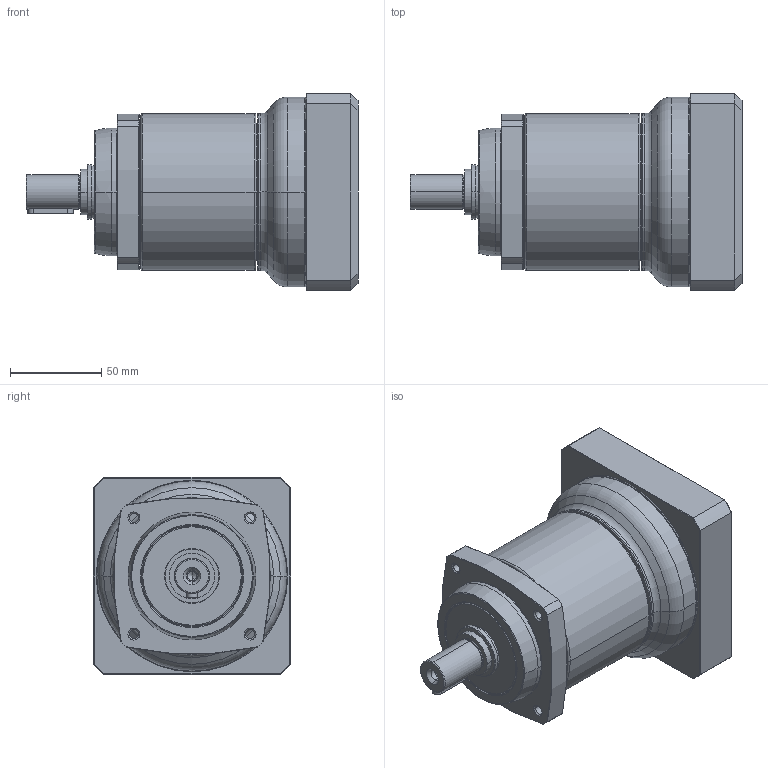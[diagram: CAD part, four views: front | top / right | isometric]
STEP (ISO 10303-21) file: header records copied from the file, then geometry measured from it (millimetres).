
FILE_DESCRIPTION((''),'2;1');
FILE_NAME('PS2-C_2ST_28-P0411600101_ASM','2016-05-24T',('d01943'),(''),'PRO/ENGINEER BY PARAMETRIC TECHNOLOGY CORPORATION, 2008410','PRO/ENGINEER BY PARAMETRIC TECHNOLOGY CORPORATION, 2008410','');
FILE_SCHEMA(('CONFIG_CONTROL_DESIGN'));
Length unit declared in the file: millimetre
Products named in the file (9): P1328310001; P0251300001; P1324300301; P0350301401; P0941303001; P0503600008; P0411600101; P1702500001; PS2-C_2ST_28-P0411600101_ASM
Assembly tree (8 placements, depth 2):
  PS2-C_2ST_28-P0411600101_ASM
    P1328310001
    P0251300001
    P1324300301
    P0350301401
    P0941303001
    P0503600008
    P0411600101
    P1702500001
Bounding box: 182 x 108 x 108 mm (x, y, z)
Volume: 681030.7 mm3; surface area: 166165.2 mm2
Topology: 8 solids, 8 shells, 485 faces, 1058 edges, 614 vertices
Faces by surface type: cone 152, cylinder 143, torus 92, plane 80, bspline 18
Entity records: 17992 total; most frequent: CARTESIAN_POINT 7060, DIRECTION 2494, ORIENTED_EDGE 2076, AXIS2_PLACEMENT_3D 1077, EDGE_CURVE 1038, VERTEX_POINT 614, CIRCLE 593, EDGE_LOOP 554
